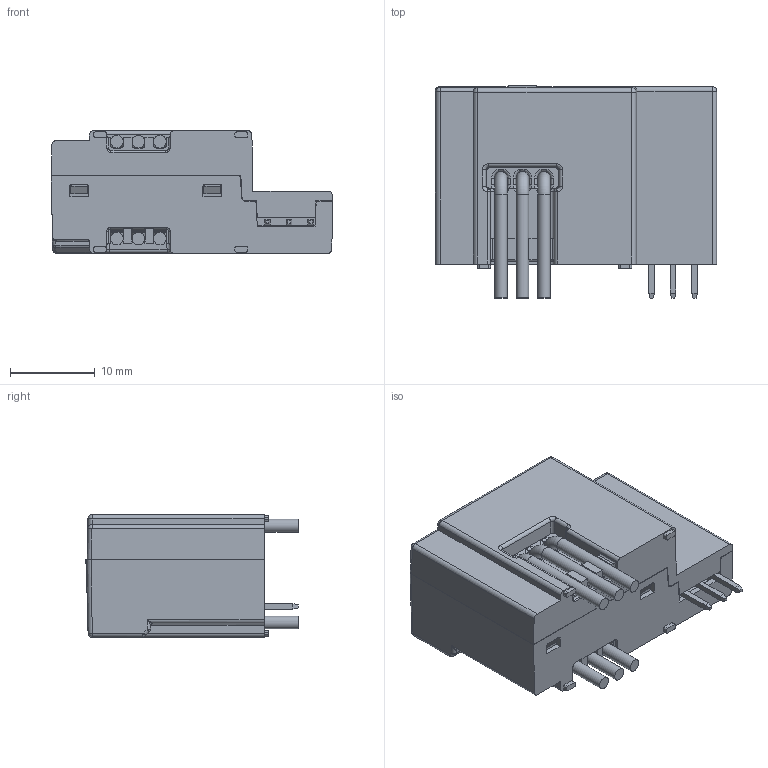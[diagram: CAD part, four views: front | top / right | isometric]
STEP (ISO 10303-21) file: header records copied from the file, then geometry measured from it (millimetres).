
FILE_DESCRIPTION(/* description */ (''),/* implementation_level */ '2;1');
FILE_NAME(/* name */ 'STB-50LA-DH.stp',/* time_stamp */ '2021-07-12T14:02:46+08:00',/* author */ (''),/* organization */ (''),/* preprocessor_version */ 'ST-DEVELOPER v15',/* originating_system */ 'SIEMENS PLM Software NX 8.5',/* authorisation */ '');
FILE_SCHEMA (('AUTOMOTIVE_DESIGN { 1 0 10303 214 3 1 1 1 }'));
Length unit declared in the file: millimetre
Products named in the file (1): Gong37DCC57440xi
Bounding box: 33.2 x 25.04 x 14.46 mm (x, y, z)
Volume: 6659.4 mm3; surface area: 5777.4 mm2
Topology: 4 solids, 4 shells, 722 faces, 1959 edges, 1218 vertices
Faces by surface type: plane 349, cylinder 233, bspline 85, torus 40, sphere 15
Full cylindrical faces by diameter (mm): 1.5 x9, 1.6 x3
Entity records: 24025 total; most frequent: CARTESIAN_POINT 6215, ORIENTED_EDGE 3818, DIRECTION 3540, EDGE_CURVE 1909, VERTEX_POINT 1209, AXIS2_PLACEMENT_3D 1185, LINE 1170, VECTOR 1170
